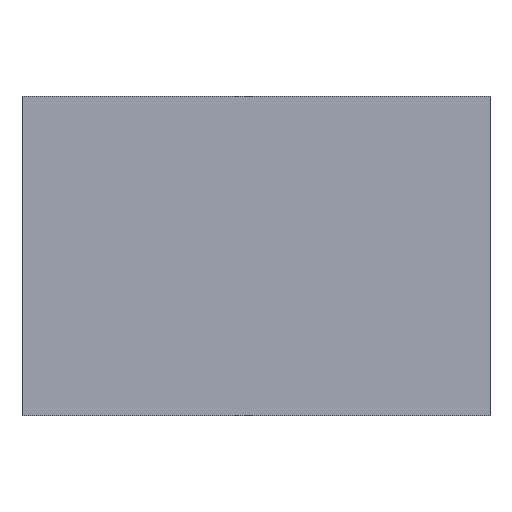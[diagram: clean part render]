
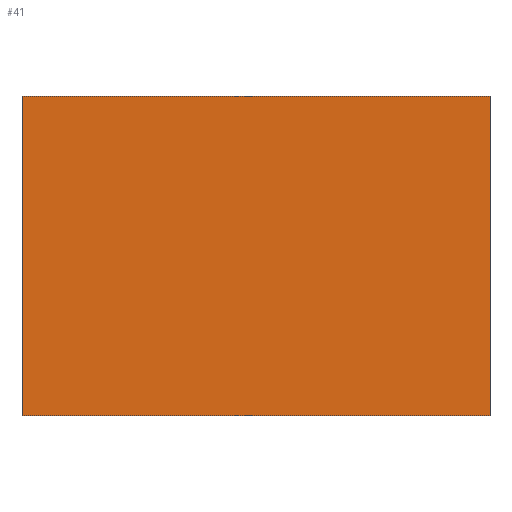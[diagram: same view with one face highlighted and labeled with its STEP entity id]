
A CAD part, front view. The second image highlights one B-rep face of the part: STEP entity #41.
In plain terms, the highlighted planar face has unit normal (0, -1, 0).
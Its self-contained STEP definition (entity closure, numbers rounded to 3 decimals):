
#41=ADVANCED_FACE('',(#53),#357,.T.);
#53=FACE_OUTER_BOUND('',#65,.T.);
#65=EDGE_LOOP('',(#95,#96,#97,#98));
#95=ORIENTED_EDGE('',*,*,#251,.T.);
#96=ORIENTED_EDGE('',*,*,#252,.T.);
#97=ORIENTED_EDGE('',*,*,#253,.T.);
#98=ORIENTED_EDGE('',*,*,#254,.T.);
#143=PCURVE('',#357,#191);
#144=PCURVE('',#357,#192);
#145=PCURVE('',#357,#193);
#146=PCURVE('',#357,#194);
#150=PCURVE('',#358,#198);
#156=PCURVE('',#360,#204);
#162=PCURVE('',#361,#210);
#163=PCURVE('',#362,#211);
#191=DEFINITIONAL_REPRESENTATION('',(#300),#586);
#192=DEFINITIONAL_REPRESENTATION('',(#302),#586);
#193=DEFINITIONAL_REPRESENTATION('',(#304),#586);
#194=DEFINITIONAL_REPRESENTATION('',(#306),#586);
#198=DEFINITIONAL_REPRESENTATION('',(#313),#586);
#204=DEFINITIONAL_REPRESENTATION('',(#323),#586);
#210=DEFINITIONAL_REPRESENTATION('',(#330),#586);
#211=DEFINITIONAL_REPRESENTATION('',(#331),#586);
#227=SURFACE_CURVE('',#299,(#143,#162),.PCURVE_S1.);
#228=SURFACE_CURVE('',#301,(#144,#150),.PCURVE_S1.);
#229=SURFACE_CURVE('',#303,(#145,#163),.PCURVE_S1.);
#230=SURFACE_CURVE('',#305,(#146,#156),.PCURVE_S1.);
#251=EDGE_CURVE('',#343,#344,#227,.T.);
#252=EDGE_CURVE('',#344,#345,#228,.T.);
#253=EDGE_CURVE('',#345,#346,#229,.T.);
#254=EDGE_CURVE('',#346,#343,#230,.T.);
#299=B_SPLINE_CURVE_WITH_KNOTS('',1,(#513,#514),.UNSPECIFIED.,.F.,.F.,(2,
2),(0.,23.),.UNSPECIFIED.);
#300=B_SPLINE_CURVE_WITH_KNOTS('',1,(#515,#516),.UNSPECIFIED.,.F.,.F.,(2,
2),(0.,23.),.UNSPECIFIED.);
#301=B_SPLINE_CURVE_WITH_KNOTS('',1,(#517,#518),.UNSPECIFIED.,.F.,.F.,(2,
2),(0.,41.),.UNSPECIFIED.);
#302=B_SPLINE_CURVE_WITH_KNOTS('',1,(#519,#520),.UNSPECIFIED.,.F.,.F.,(2,
2),(0.,41.),.UNSPECIFIED.);
#303=B_SPLINE_CURVE_WITH_KNOTS('',1,(#521,#522),.UNSPECIFIED.,.F.,.F.,(2,
2),(-23.,0.),.UNSPECIFIED.);
#304=B_SPLINE_CURVE_WITH_KNOTS('',1,(#523,#524),.UNSPECIFIED.,.F.,.F.,(2,
2),(-23.,0.),.UNSPECIFIED.);
#305=B_SPLINE_CURVE_WITH_KNOTS('',1,(#525,#526),.UNSPECIFIED.,.F.,.F.,(2,
2),(-41.,0.),.UNSPECIFIED.);
#306=B_SPLINE_CURVE_WITH_KNOTS('',1,(#527,#528),.UNSPECIFIED.,.F.,.F.,(2,
2),(-41.,0.),.UNSPECIFIED.);
#313=B_SPLINE_CURVE_WITH_KNOTS('',1,(#541,#542),.UNSPECIFIED.,.F.,.F.,(2,
2),(0.,41.),.UNSPECIFIED.);
#323=B_SPLINE_CURVE_WITH_KNOTS('',1,(#561,#562),.UNSPECIFIED.,.F.,.F.,(2,
2),(-41.,0.),.UNSPECIFIED.);
#330=B_SPLINE_CURVE_WITH_KNOTS('',1,(#575,#576),.UNSPECIFIED.,.F.,.F.,(2,
2),(0.,23.),.UNSPECIFIED.);
#331=B_SPLINE_CURVE_WITH_KNOTS('',1,(#577,#578),.UNSPECIFIED.,.F.,.F.,(2,
2),(-23.,0.),.UNSPECIFIED.);
#343=VERTEX_POINT('',#505);
#344=VERTEX_POINT('',#506);
#345=VERTEX_POINT('',#507);
#346=VERTEX_POINT('',#508);
#357=PLANE('',#389);
#358=PLANE('',#390);
#360=PLANE('',#392);
#361=PLANE('',#393);
#362=PLANE('',#394);
#389=AXIS2_PLACEMENT_3D('',#499,#404,$);
#390=AXIS2_PLACEMENT_3D('',#500,#405,$);
#392=AXIS2_PLACEMENT_3D('',#502,#407,$);
#393=AXIS2_PLACEMENT_3D('',#503,#408,$);
#394=AXIS2_PLACEMENT_3D('',#504,#409,$);
#404=DIRECTION('',(0.,-1.,0.));
#405=DIRECTION('',(1.,0.,0.));
#407=DIRECTION('',(-1.,0.,0.));
#408=DIRECTION('',(0.,0.,-1.));
#409=DIRECTION('',(0.,0.,1.));
#499=CARTESIAN_POINT('',(380.,371.5,-151.744));
#500=CARTESIAN_POINT('',(440.,371.5,-151.744));
#502=CARTESIAN_POINT('',(380.,391.5,-151.744));
#503=CARTESIAN_POINT('',(380.,371.5,-151.744));
#504=CARTESIAN_POINT('',(380.,371.5,-110.744));
#505=CARTESIAN_POINT('',(380.,371.5,-151.744));
#506=CARTESIAN_POINT('',(440.,371.5,-151.744));
#507=CARTESIAN_POINT('',(440.,371.5,-110.744));
#508=CARTESIAN_POINT('',(380.,371.5,-110.744));
#513=CARTESIAN_POINT('',(380.,371.5,-151.744));
#514=CARTESIAN_POINT('',(440.,371.5,-151.744));
#515=CARTESIAN_POINT('',(0.,0.));
#516=CARTESIAN_POINT('',(23.,0.));
#517=CARTESIAN_POINT('',(440.,371.5,-151.744));
#518=CARTESIAN_POINT('',(440.,371.5,-110.744));
#519=CARTESIAN_POINT('',(23.,0.));
#520=CARTESIAN_POINT('',(23.,41.));
#521=CARTESIAN_POINT('',(440.,371.5,-110.744));
#522=CARTESIAN_POINT('',(380.,371.5,-110.744));
#523=CARTESIAN_POINT('',(23.,41.));
#524=CARTESIAN_POINT('',(0.,41.));
#525=CARTESIAN_POINT('',(380.,371.5,-110.744));
#526=CARTESIAN_POINT('',(380.,371.5,-151.744));
#527=CARTESIAN_POINT('',(0.,41.));
#528=CARTESIAN_POINT('',(0.,0.));
#541=CARTESIAN_POINT('',(23.,0.));
#542=CARTESIAN_POINT('',(23.,41.));
#561=CARTESIAN_POINT('',(128.,41.));
#562=CARTESIAN_POINT('',(128.,0.));
#575=CARTESIAN_POINT('',(0.,0.));
#576=CARTESIAN_POINT('',(0.,60.));
#577=CARTESIAN_POINT('',(60.,0.));
#578=CARTESIAN_POINT('',(0.,0.));
#586=(
GEOMETRIC_REPRESENTATION_CONTEXT(2)
PARAMETRIC_REPRESENTATION_CONTEXT()
REPRESENTATION_CONTEXT('pspace','')
);
